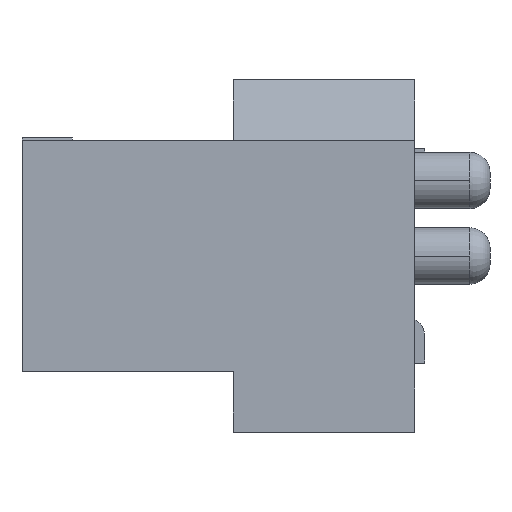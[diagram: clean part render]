
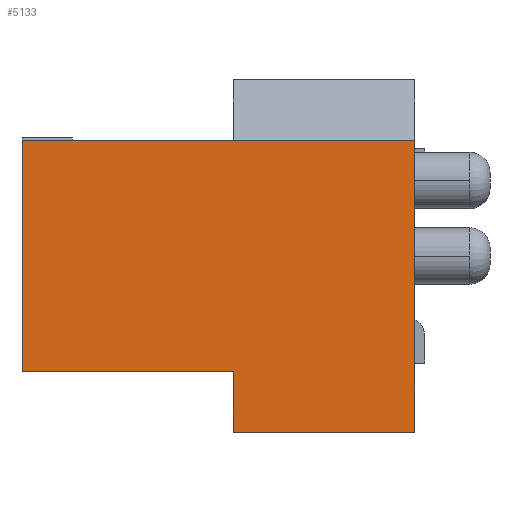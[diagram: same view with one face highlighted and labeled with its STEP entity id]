
A CAD part, left-side view. The second image highlights one B-rep face of the part: STEP entity #5133.
In plain terms, the highlighted planar face has unit normal (-1, 0, 0).
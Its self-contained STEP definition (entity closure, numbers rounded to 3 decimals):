
#55 = CARTESIAN_POINT ( 'NONE',  ( -6.3, -3.9, 5.8 ) ) ;
#82 = DIRECTION ( 'NONE',  ( 0., 1., 0. ) ) ;
#100 = CARTESIAN_POINT ( 'NONE',  ( -6.3, -0.3, 0. ) ) ;
#164 = CARTESIAN_POINT ( 'NONE',  ( -6.3, -0.3, 5.8 ) ) ;
#376 = CARTESIAN_POINT ( 'NONE',  ( -6.3, 0., 0. ) ) ;
#613 = LINE ( 'NONE', #376, #4534 ) ;
#681 = CARTESIAN_POINT ( 'NONE',  ( -6.3, 3.9, 1.2 ) ) ;
#683 = CARTESIAN_POINT ( 'NONE',  ( -6.3, 3.9, 5.8 ) ) ;
#1259 = ORIENTED_EDGE ( 'NONE', *, *, #9486, .F. ) ;
#1431 = ORIENTED_EDGE ( 'NONE', *, *, #5795, .F. ) ;
#1441 = ORIENTED_EDGE ( 'NONE', *, *, #5892, .F. ) ;
#1473 = ORIENTED_EDGE ( 'NONE', *, *, #5036, .T. ) ;
#1705 = ORIENTED_EDGE ( 'NONE', *, *, #5183, .F. ) ;
#1775 = ORIENTED_EDGE ( 'NONE', *, *, #5729, .F. ) ;
#2089 = VERTEX_POINT ( 'NONE', #9108 ) ;
#2408 = EDGE_LOOP ( 'NONE', ( #1441, #1431, #1705, #1775, #1259, #1473, #2665 ) ) ;
#2543 = VERTEX_POINT ( 'NONE', #10290 ) ;
#2665 = ORIENTED_EDGE ( 'NONE', *, *, #5817, .F. ) ;
#2959 = DIRECTION ( 'NONE',  ( 0., -1., 0. ) ) ;
#2960 = CARTESIAN_POINT ( 'NONE',  ( -6.3, 0., 5.8 ) ) ;
#2961 = LINE ( 'NONE', #2960, #4860 ) ;
#3141 = DIRECTION ( 'NONE',  ( 0., -1., 0. ) ) ;
#3165 = CARTESIAN_POINT ( 'NONE',  ( -6.3, 0., 5.8 ) ) ;
#3192 = CARTESIAN_POINT ( 'NONE',  ( -6.3, 3.9, 2.9 ) ) ;
#3193 = DIRECTION ( 'NONE',  ( 0., 0., 1. ) ) ;
#3236 = LINE ( 'NONE', #3192, #5285 ) ;
#3245 = LINE ( 'NONE', #3165, #4942 ) ;
#3531 = LINE ( 'NONE', #3559, #5437 ) ;
#3559 = CARTESIAN_POINT ( 'NONE',  ( -6.3, -0.3, 2.9 ) ) ;
#3576 = DIRECTION ( 'NONE',  ( 0., 0., 1. ) ) ;
#4534 = VECTOR ( 'NONE', #82, 1000. ) ;
#4860 = VECTOR ( 'NONE', #2959, 1000. ) ;
#4942 = VECTOR ( 'NONE', #3141, 1000. ) ;
#5036 = EDGE_CURVE ( 'NONE', #2089, #8409, #7388, .T. ) ;
#5133 = ADVANCED_FACE ( 'NONE', ( #6817 ), #6797, .F. ) ;
#5183 = EDGE_CURVE ( 'NONE', #2543, #8391, #6971, .T. ) ;
#5285 = VECTOR ( 'NONE', #3193, 1000. ) ;
#5437 = VECTOR ( 'NONE', #3576, 1000. ) ;
#5729 = EDGE_CURVE ( 'NONE', #8418, #2543, #3531, .T. ) ;
#5795 = EDGE_CURVE ( 'NONE', #8391, #8400, #3236, .T. ) ;
#5817 = EDGE_CURVE ( 'NONE', #8412, #8409, #3245, .T. ) ;
#5892 = EDGE_CURVE ( 'NONE', #8400, #8412, #2961, .T. ) ;
#6796 = CARTESIAN_POINT ( 'NONE',  ( -6.3, -3.9, 5.8 ) ) ;
#6797 = PLANE ( 'NONE',  #7553 ) ;
#6817 = FACE_OUTER_BOUND ( 'NONE', #2408, .T. ) ;
#6822 = DIRECTION ( 'NONE',  ( 0., 0., -1. ) ) ;
#6825 = DIRECTION ( 'NONE',  ( 1., 0., 0. ) ) ;
#6971 = LINE ( 'NONE', #6973, #7531 ) ;
#6973 = CARTESIAN_POINT ( 'NONE',  ( -6.3, 0., 1.2 ) ) ;
#6974 = DIRECTION ( 'NONE',  ( 0., 1., 0. ) ) ;
#7385 = DIRECTION ( 'NONE',  ( 0., 0., 1. ) ) ;
#7387 = CARTESIAN_POINT ( 'NONE',  ( -6.3, -3.9, 3.5 ) ) ;
#7388 = LINE ( 'NONE', #7387, #7613 ) ;
#7531 = VECTOR ( 'NONE', #6974, 1000. ) ;
#7553 = AXIS2_PLACEMENT_3D ( 'NONE', #6796, #6825, #6822 ) ;
#7613 = VECTOR ( 'NONE', #7385, 1000. ) ;
#8391 = VERTEX_POINT ( 'NONE', #681 ) ;
#8400 = VERTEX_POINT ( 'NONE', #683 ) ;
#8409 = VERTEX_POINT ( 'NONE', #55 ) ;
#8412 = VERTEX_POINT ( 'NONE', #164 ) ;
#8418 = VERTEX_POINT ( 'NONE', #100 ) ;
#9108 = CARTESIAN_POINT ( 'NONE',  ( -6.3, -3.9, 0. ) ) ;
#9486 = EDGE_CURVE ( 'NONE', #2089, #8418, #613, .T. ) ;
#10290 = CARTESIAN_POINT ( 'NONE',  ( -6.3, -0.3, 1.2 ) ) ;
